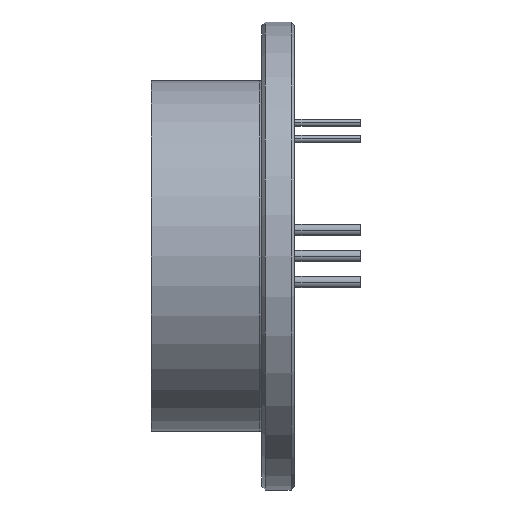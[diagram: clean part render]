
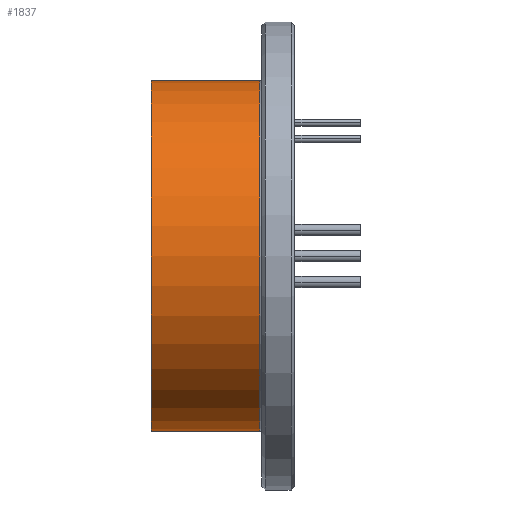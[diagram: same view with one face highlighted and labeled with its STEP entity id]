
A CAD part, front view. The second image highlights one B-rep face of the part: STEP entity #1837.
In plain terms, the highlighted cylindrical face has radius 27 mm (diameter 54 mm), a partial arc.
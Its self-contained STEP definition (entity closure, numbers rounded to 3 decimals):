
#262=CARTESIAN_POINT('',(-5.3,0.,0.));
#263=DIRECTION('',(-1.,0.,0.));
#264=DIRECTION('',(0.,0.,-1.));
#265=AXIS2_PLACEMENT_3D('',#262,#263,#264);
#270=DIRECTION('',(1.,0.,0.));
#271=VECTOR('',#270,16.7);
#272=CARTESIAN_POINT('',(-22.,0.,-27.));
#273=LINE('',#272,#271);
#277=CARTESIAN_POINT('',(-22.,0.,0.));
#278=DIRECTION('',(-1.,0.,0.));
#279=DIRECTION('',(0.,0.,-1.));
#280=AXIS2_PLACEMENT_3D('',#277,#278,#279);
#285=DIRECTION('',(1.,0.,0.));
#286=VECTOR('',#285,16.7);
#287=CARTESIAN_POINT('',(-22.,0.,27.));
#288=LINE('',#287,#286);
#1485=CARTESIAN_POINT('',(-22.,0.,-27.));
#1486=CARTESIAN_POINT('',(-22.,0.,27.));
#1487=VERTEX_POINT('',#1485);
#1488=VERTEX_POINT('',#1486);
#1505=CARTESIAN_POINT('',(-5.3,0.,-27.));
#1506=CARTESIAN_POINT('',(-5.3,0.,27.));
#1507=VERTEX_POINT('',#1505);
#1508=VERTEX_POINT('',#1506);
#1823=CARTESIAN_POINT('',(-23.1,0.,0.));
#1824=DIRECTION('',(1.,0.,0.));
#1825=DIRECTION('',(0.,0.,-1.));
#1826=AXIS2_PLACEMENT_3D('',#1823,#1824,#1825);
#1827=CYLINDRICAL_SURFACE('',#1826,27.);
#1829=ORIENTED_EDGE('',*,*,#1828,.F.);
#1831=ORIENTED_EDGE('',*,*,#1830,.F.);
#1832=ORIENTED_EDGE('',*,*,#1811,.T.);
#1834=ORIENTED_EDGE('',*,*,#1833,.T.);
#1835=EDGE_LOOP('',(#1829,#1831,#1832,#1834));
#1836=FACE_OUTER_BOUND('',#1835,.F.);
#1837=ADVANCED_FACE('',(#1836),#1827,.T.);
#266=CIRCLE('',#265,27.);
#281=CIRCLE('',#280,27.);
#1811=EDGE_CURVE('',#1487,#1488,#281,.T.);
#1828=EDGE_CURVE('',#1507,#1508,#266,.T.);
#1830=EDGE_CURVE('',#1487,#1507,#273,.T.);
#1833=EDGE_CURVE('',#1488,#1508,#288,.T.);
